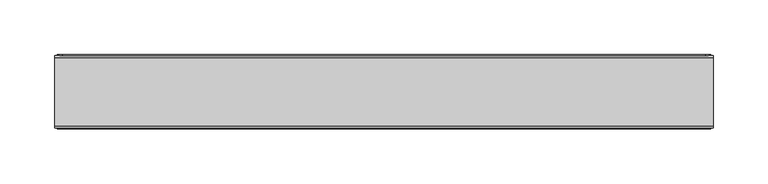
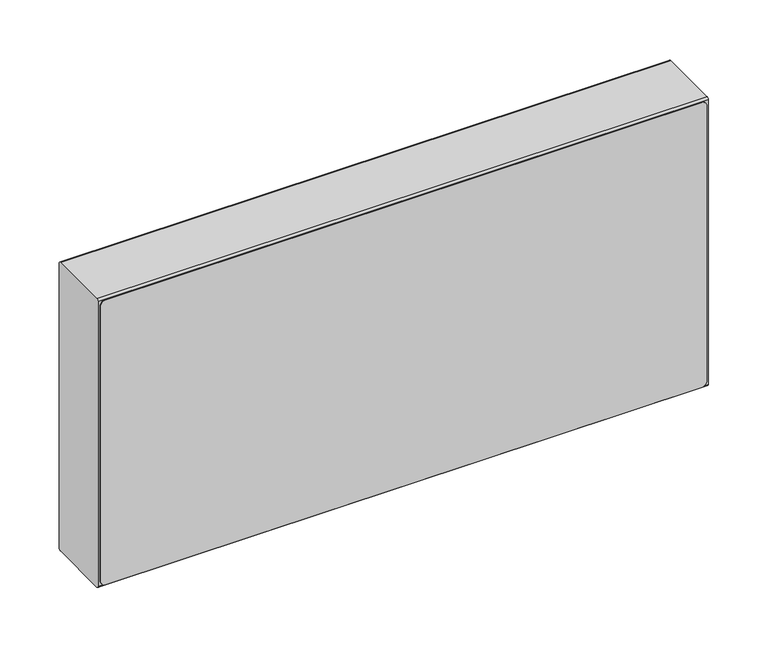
"""IFC4 building model written with IfcOpenShell, lengths in millimetres: proxy geometry, EVRA CV Д : 21-300-600."""

import ifcopenshell
import ifcopenshell.guid

model = None  # the IFC model being written
_history = None  # IfcOwnerHistory: only IFC2X3 demands one
_inside = {}  # id of a spatial element -> (the spatial element, [elements in it])
_under = {}  # id of a project, library or spatial element -> (it, [spatial elements below it])
_declared = {}  # id of a project -> (the project, [libraries it declares])
_typed = {}  # id of a type object -> (the type object, [elements of that type])
_made_of = {}  # id of a material, layer set ... -> (it, [elements and type objects made of it])


def new_model(schema):
    """Start an empty IFC model of exactly this schema.

    Asked for "IFC4X3", IfcOpenShell would pick the latest addendum, in which some entities
    have other attributes; the version numbers below select the first issue.
    IFC2X3 requires an IfcOwnerHistory on every rooted entity: one is made here for all.
    """
    global model, _history
    if schema == "IFC4X3":
        model = ifcopenshell.file(schema_version=(4, 3, 0, 0))
    else:
        model = ifcopenshell.file(schema=schema)
    _inside.clear()
    _under.clear()
    _declared.clear()
    _typed.clear()
    _made_of.clear()
    _history = None
    if model.schema == "IFC2X3":
        org = make("IfcOrganization", Name="unknown")
        user = make(
            "IfcPersonAndOrganization",
            ThePerson=make("IfcPerson", FamilyName="unknown"),
            TheOrganization=org,
        )
        app = make(
            "IfcApplication",
            ApplicationDeveloper=org,
            Version="unknown",
            ApplicationFullName="unknown",
            ApplicationIdentifier="unknown",
        )
        _history = make(
            "IfcOwnerHistory",
            OwningUser=user,
            OwningApplication=app,
            ChangeAction="ADDED",
            CreationDate=0,
        )
    return model


def make(cls, **values):
    """One entity of the class cls with the attributes given. An attribute that is None is left unset."""
    return model.create_entity(
        cls, **{name: value for name, value in values.items() if value is not None}
    )


def rooted(cls, **values):
    """An entity with a GlobalId (a new one), such as an element, a storey or a relation."""
    return make(cls, GlobalId=ifcopenshell.guid.new(), OwnerHistory=_history, **values)


def si_unit(unit_type, name, prefix=None):
    """IfcSIUnit, for example si_unit("LENGTHUNIT", "METRE", prefix="MILLI")."""
    return make("IfcSIUnit", UnitType=unit_type, Prefix=prefix, Name=name)


def assignment(units):
    """IfcUnitAssignment: the units of a project."""
    return None if units is None else make("IfcUnitAssignment", Units=units)


def point(xyz):
    """IfcCartesianPoint."""
    return None if xyz is None else make("IfcCartesianPoint", Coordinates=xyz)


def direction(xyz):
    """IfcDirection."""
    return None if xyz is None else make("IfcDirection", DirectionRatios=xyz)


def frame(location, z_axis=None, x_axis=None):
    """IfcAxis2Placement3D, a coordinate frame: its origin and axes. An axis left out is left unset."""
    return make(
        "IfcAxis2Placement3D",
        Location=point(location),
        Axis=direction(z_axis),
        RefDirection=direction(x_axis),
    )


def frame_2d(location, x_axis=None):
    """IfcAxis2Placement2D, a coordinate frame in the plane: its origin and x axis."""
    return make(
        "IfcAxis2Placement2D", Location=point(location), RefDirection=direction(x_axis)
    )


def origin():
    """The frame at (0, 0, 0) with its axes left unset."""
    return frame((0.0, 0.0, 0.0))


def place(relative_to, where):
    """IfcLocalPlacement: puts the frame where relative to a parent placement (None: the world)."""
    return make(
        "IfcLocalPlacement", PlacementRelTo=relative_to, RelativePlacement=where
    )


def context(
    kind, dimensions, precision=None, world=None, true_north=None, identifier=None
):
    """IfcGeometricRepresentationContext, for example the 3D "Model" context."""
    return make(
        "IfcGeometricRepresentationContext",
        ContextIdentifier=identifier,
        ContextType=kind,
        CoordinateSpaceDimension=dimensions,
        Precision=precision,
        WorldCoordinateSystem=world,
        TrueNorth=true_north,
    )


def project(units=None, contexts=None):
    """IfcProject with its units and contexts."""
    return rooted(
        "IfcProject",
        Name="project",
        RepresentationContexts=contexts,
        UnitsInContext=assignment(units),
    )


def spatial(cls, under=None, at=None, **own):
    """A site, building, storey or space (cls), placed at a placement, below another one or the project."""
    s = rooted(cls, ObjectPlacement=at, **own)
    if under is not None:
        _under.setdefault(under.id(), (under, []))[1].append(s)
    return s


def polyline(points):
    """IfcPolyline through the points."""
    return make("IfcPolyline", Points=[point(p) for p in points])


def circle_curve(where, radius):
    """IfcCircle in the frame where."""
    return make("IfcCircle", Position=where, Radius=radius)


def trimmed(basis, trim1, trim2, sense, master):
    """IfcTrimmedCurve: the piece of a basis curve between two trims."""
    return make(
        "IfcTrimmedCurve",
        BasisCurve=basis,
        Trim1=trim1,
        Trim2=trim2,
        SenseAgreement=sense,
        MasterRepresentation=master,
    )


def segment(curve, same_sense, transition):
    """IfcCompositeCurveSegment."""
    return make(
        "IfcCompositeCurveSegment",
        Transition=transition,
        SameSense=same_sense,
        ParentCurve=curve,
    )


def composite_curve(segments, self_intersect=None):
    """IfcCompositeCurve: segments joined end to end."""
    return make("IfcCompositeCurve", Segments=segments, SelfIntersect=self_intersect)


def outline(outer, holes=None, kind="AREA"):
    """IfcArbitraryClosedProfileDef: a profile drawn as a closed curve; with holes, ...WithVoids."""
    if holes is None:
        return make("IfcArbitraryClosedProfileDef", ProfileType=kind, OuterCurve=outer)
    return make(
        "IfcArbitraryProfileDefWithVoids",
        ProfileType=kind,
        OuterCurve=outer,
        InnerCurves=holes,
    )


def extrude(swept, where, along, depth):
    """IfcExtrudedAreaSolid: the profile swept, set in the frame where, extruded along a direction by depth."""
    return make(
        "IfcExtrudedAreaSolid",
        SweptArea=swept,
        Position=where,
        ExtrudedDirection=direction(along),
        Depth=depth,
    )


def shape(context_of_items, identifier, shape_type, items):
    """IfcShapeRepresentation: the items that make up one representation, for example the "Body"."""
    return make(
        "IfcShapeRepresentation",
        ContextOfItems=context_of_items,
        RepresentationIdentifier=identifier,
        RepresentationType=shape_type,
        Items=items,
    )


def source(mapping_origin, context_of_items, identifier, shape_type, items):
    """IfcRepresentationMap: a shape defined once, which mapped items show again and again."""
    return make(
        "IfcRepresentationMap",
        MappingOrigin=mapping_origin,
        MappedRepresentation=shape(context_of_items, identifier, shape_type, items),
    )


def transform(
    local_origin,
    x_axis=None,
    y_axis=None,
    z_axis=None,
    scale=None,
    scale2=None,
    scale3=None,
    uniform=True,
):
    """IfcCartesianTransformationOperator3D, or its non-uniform kind. x_axis, y_axis, z_axis: its Axis1, 2, 3."""
    if uniform:
        return make(
            "IfcCartesianTransformationOperator3D",
            Axis1=direction(x_axis),
            Axis2=direction(y_axis),
            LocalOrigin=point(local_origin),
            Scale=scale,
            Axis3=direction(z_axis),
        )
    return make(
        "IfcCartesianTransformationOperator3DnonUniform",
        Axis1=direction(x_axis),
        Axis2=direction(y_axis),
        LocalOrigin=point(local_origin),
        Scale=scale,
        Axis3=direction(z_axis),
        Scale2=scale2,
        Scale3=scale3,
    )


def mapped(mapping_source, mapping_target):
    """IfcMappedItem: shows the shape of a source again, moved by a transform."""
    return make(
        "IfcMappedItem", MappingSource=mapping_source, MappingTarget=mapping_target
    )


def made_of(thing, what):
    """Note that an element or type object is made of a material, layer set ...; save() writes the relation."""
    if what is not None:
        _made_of.setdefault(what.id(), (what, []))[1].append(thing)
    return thing


def element(
    cls,
    number,
    at=None,
    inside=None,
    cuts=None,
    type_object=None,
    material=None,
    context=None,
    identifier="Body",
    shape_type=None,
    held_by="IfcProductDefinitionShape",
    body=None,
    shapes=None,
    **own,
):
    """One element of the class cls, such as IfcWall. Its Tag is "e" and its number.

    at: its placement. inside: the storey or other place that contains it. cuts: it is an
    opening in that element (IfcRelVoidsElement). A single representation is given by context,
    identifier, shape_type and body (its items); several are given by shapes. held_by: the class
    of the entity that holds the representations. save() writes the other relations.
    """
    e = rooted(cls, Tag="e%d" % number, ObjectPlacement=at, **own)
    if body is not None:
        shapes = [shape(context, identifier, shape_type, body)]
    if shapes is not None:
        e.Representation = make(held_by, Representations=shapes)
    if inside is not None:
        _inside.setdefault(inside.id(), (inside, []))[1].append(e)
    if cuts is not None:
        rooted(
            "IfcRelVoidsElement", RelatingBuildingElement=cuts, RelatedOpeningElement=e
        )
    if type_object is not None:
        _typed.setdefault(type_object.id(), (type_object, []))[1].append(e)
    return made_of(e, material)


def aggregate(whole, parts):
    """IfcRelAggregates: a whole, such as a stair, and the parts it consists of."""
    return rooted("IfcRelAggregates", RelatingObject=whole, RelatedObjects=parts)


def save(model, path):
    """Write the relations noted so far, then the file.

    IfcRelAggregates (storeys below a building ...), IfcRelContainedInSpatialStructure (elements
    in a storey), IfcRelDefinesByType, IfcRelAssociatesMaterial and IfcRelDeclares: one each for
    every whole, place, type object, material and project.
    """
    for whole, parts in _under.values():
        aggregate(whole, parts)
    for where, things in _inside.values():
        rooted(
            "IfcRelContainedInSpatialStructure",
            RelatedElements=things,
            RelatingStructure=where,
        )
    for kind, things in _typed.values():
        rooted("IfcRelDefinesByType", RelatedObjects=things, RelatingType=kind)
    for what, things in _made_of.values():
        rooted("IfcRelAssociatesMaterial", RelatedObjects=things, RelatingMaterial=what)
    for by, libraries in _declared.values():
        rooted("IfcRelDeclares", RelatingContext=by, RelatedDefinitions=libraries)
    model.write(path)


def mechanical_equipment_feb41a6e(model_context):
    return source(origin(), model_context, "Body", "SweptSolid", [
        extrude(outline(composite_curve([segment(polyline([(398.0, 493.0), (398.0, -93.0)]), True, "CONTINUOUS"), segment(trimmed(circle_curve(frame_2d((393.0, -93.0)), 5.0), [point((398.0, -93.0))], [point((393.0, -98.0))], False, "CARTESIAN"), True, "CONTINUOUS"), segment(polyline([(393.0, -98.0), (107.0, -98.0)]), True, "CONTINUOUS"), segment(trimmed(circle_curve(frame_2d((107.0, -93.0)), 5.0), [point((107.0, -98.0))], [point((102.0, -93.0))], False, "CARTESIAN"), True, "CONTINUOUS"), segment(polyline([(102.0, -93.0), (102.0, 493.0)]), True, "CONTINUOUS"), segment(trimmed(circle_curve(frame_2d((107.0, 493.0)), 5.0), [point((102.0, 493.0))], [point((107.0, 498.0))], False, "CARTESIAN"), True, "CONTINUOUS"), segment(polyline([(107.0, 498.0), (393.0, 498.0)]), True, "CONTINUOUS"), segment(trimmed(circle_curve(frame_2d((393.0, 493.0)), 5.0), [point((393.0, 498.0))], [point((398.0, 493.0))], False, "CARTESIAN"), True, "CONTINUOUS")], self_intersect=False)), frame((0.0, 11.4631102, 0.0), z_axis=(0.0, 1.0, 0.0), x_axis=(0.0, 0.0, 1.0)), (0.0, 0.0, 1.0), 1.0),
        extrude(outline(composite_curve([segment(polyline([(398.0, 493.0), (398.0, -93.0)]), True, "CONTINUOUS"), segment(trimmed(circle_curve(frame_2d((393.0, -93.0)), 5.0), [point((398.0, -93.0))], [point((393.0, -98.0))], False, "CARTESIAN"), True, "CONTINUOUS"), segment(polyline([(393.0, -98.0), (107.0, -98.0)]), True, "CONTINUOUS"), segment(trimmed(circle_curve(frame_2d((107.0, -93.0)), 5.0), [point((107.0, -98.0))], [point((102.0, -93.0))], False, "CARTESIAN"), True, "CONTINUOUS"), segment(polyline([(102.0, -93.0), (102.0, 493.0)]), True, "CONTINUOUS"), segment(trimmed(circle_curve(frame_2d((107.0, 493.0)), 5.0), [point((102.0, 493.0))], [point((107.0, 498.0))], False, "CARTESIAN"), True, "CONTINUOUS"), segment(polyline([(107.0, 498.0), (393.0, 498.0)]), True, "CONTINUOUS"), segment(trimmed(circle_curve(frame_2d((393.0, 493.0)), 5.0), [point((393.0, 498.0))], [point((398.0, 493.0))], False, "CARTESIAN"), True, "CONTINUOUS")], self_intersect=False)), frame((0.0, -55.5368898, 0.0), z_axis=(0.0, 1.0, 0.0), x_axis=(0.0, 0.0, 1.0)), (0.0, 0.0, 1.0), 1.0),
        extrude(outline(composite_curve([segment(trimmed(circle_curve(frame_2d((9.4631102, 398.0)), 2.0), [point((9.4631102, 400.0))], [point((11.4631102, 398.0))], False, "CARTESIAN"), True, "CONTINUOUS"), segment(polyline([(11.4631102, 398.0), (11.4631102, 102.0)]), True, "CONTINUOUS"), segment(trimmed(circle_curve(frame_2d((9.4631102, 102.0)), 2.0), [point((11.4631102, 102.0))], [point((9.4631102, 100.0))], False, "CARTESIAN"), True, "CONTINUOUS"), segment(polyline([(9.4631102, 100.0), (-52.5368898, 100.0)]), True, "CONTINUOUS"), segment(trimmed(circle_curve(frame_2d((-52.5368898, 102.0)), 2.0), [point((-52.5368898, 100.0))], [point((-54.5368898, 102.0))], False, "CARTESIAN"), True, "CONTINUOUS"), segment(polyline([(-54.5368898, 102.0), (-54.5368898, 398.0)]), True, "CONTINUOUS"), segment(trimmed(circle_curve(frame_2d((-52.5368898, 398.0)), 2.0), [point((-54.5368898, 398.0))], [point((-52.5368898, 400.0))], False, "CARTESIAN"), True, "CONTINUOUS"), segment(polyline([(-52.5368898, 400.0), (9.4631102, 400.0)]), True, "CONTINUOUS")], self_intersect=False)), frame((-100.0, 0.0, 0.0), z_axis=(1.0, 0.0, 0.0), x_axis=(0.0, 1.0, 0.0)), (0.0, 0.0, 1.0), 600.0),
    ])


if __name__ == "__main__":
    model = new_model("IFC4")
    model_context = context("Model", 3, world=origin())
    ifc_project = project(units=[si_unit("LENGTHUNIT", "METRE", prefix="MILLI")], contexts=[model_context])
    site = spatial("IfcSite", under=ifc_project)
    building = spatial("IfcBuilding", under=site)
    placement = place(None, origin())
    mechanical_equipment_shape = mechanical_equipment_feb41a6e(model_context)
    element("IfcBuildingElementProxy", 1, Name="EVRA CV Д : 21-300-600", ObjectType="EVRA CV Д : 21-300-600", at=placement, inside=building, context=model_context, shape_type="MappedRepresentation", body=[
        mapped(mechanical_equipment_shape, transform((0.0, 0.0, 0.0), x_axis=(1.0, 0.0, 0.0), y_axis=(0.0, 1.0, 0.0), z_axis=(0.0, 0.0, 1.0))),
    ])
    save(model, "model.ifc")
